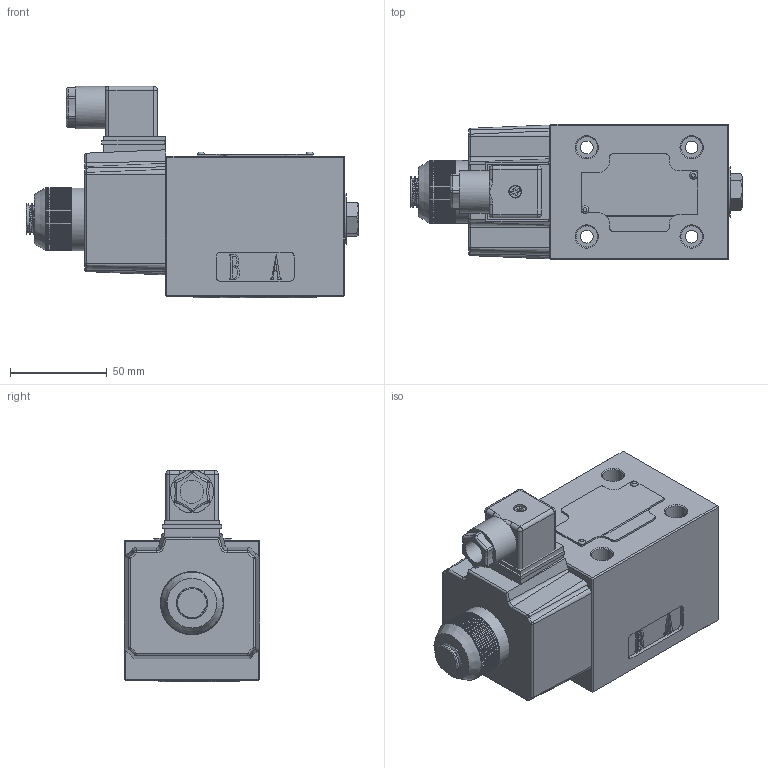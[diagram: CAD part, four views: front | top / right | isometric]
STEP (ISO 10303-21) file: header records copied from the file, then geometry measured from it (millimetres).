
FILE_DESCRIPTION(/* description */ (''),/* implementation_level */ '2;1');
FILE_NAME(/* name */ '4WE10-3XJ交流电磁阀（二位阀电磁铁在B端）.prt.stp',/* time_stamp */ '2022-03-30T19:33:34+08:00',/* author */ (''),/* organization */ (''),/* preprocessor_version */ 'ST-DEVELOPER v16.7',/* originating_system */ 'SIEMENS PLM Software NX 12.0',/* authorisation */ '');
FILE_SCHEMA (('AUTOMOTIVE_DESIGN { 1 0 10303 214 3 1 1 1 }'));
Products named in the file (1): 4WE10-3XJ交流电磁阀（二位阀电磁铁在B
端）
Bounding box: 171.2 x 70 x 109 mm (x, y, z)
Volume: 526866.1 mm3; surface area: 106944.5 mm2
Topology: 16 solids, 26 shells, 990 faces, 2583 edges, 1669 vertices
Faces by surface type: plane 559, cylinder 311, cone 47, bspline 30, torus 30, sphere 10, extrusion 3
Full cylindrical faces by diameter (mm): 1.8 x4, 1.9 x2, 2.55 x18, 3 x39, 3.5 x2, 3.6 x6, 6 x1, 6.5 x1, 6.6 x4, 7 x1, 8 x1, 11 x4, 12 x1, 12.085 x1, 15.7 x5, 16.5 x1, 17 x1, 21.4 x1, 22 x2, 23 x1, 26 x4, 27 x1, 31.4 x1, 31.5 x1, 32.5 x1
Entity records: 54215 total; most frequent: CARTESIAN_POINT 29654, ORIENTED_EDGE 4560, DIRECTION 4539, EDGE_CURVE 2280, AXIS2_PLACEMENT_3D 1574, VERTEX_POINT 1536, VECTOR 1391, LINE 1388
